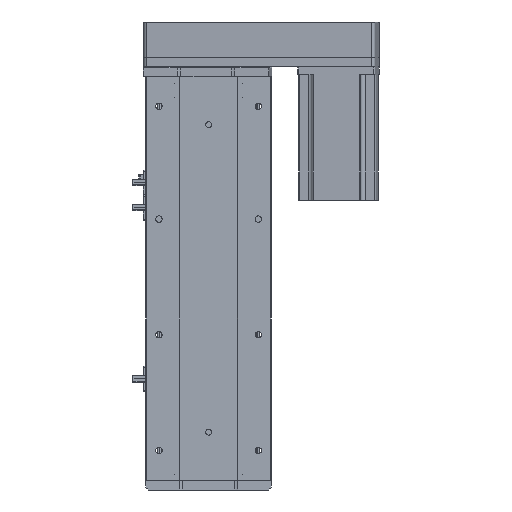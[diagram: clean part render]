
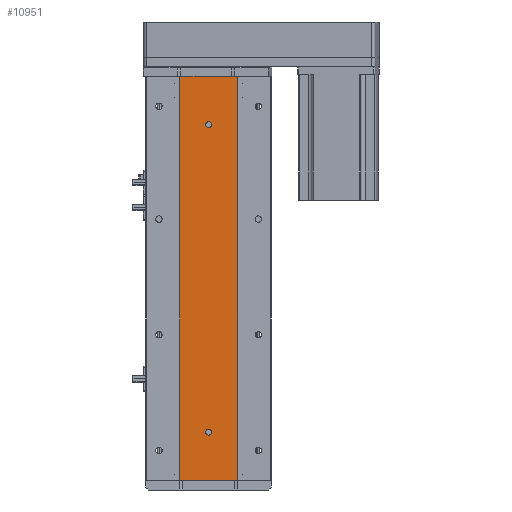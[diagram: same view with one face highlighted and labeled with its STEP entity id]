
A CAD part, left-side view. The second image highlights one B-rep face of the part: STEP entity #10951.
In plain terms, the highlighted planar face has unit normal (-1, 0, 0).
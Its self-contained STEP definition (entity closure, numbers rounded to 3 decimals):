
#96 = DIRECTION ( 'NONE',  ( 1., 0., 0. ) ) ;
#478 = CARTESIAN_POINT ( 'NONE',  ( -24.994, 29.785, 0. ) ) ;
#525 = CARTESIAN_POINT ( 'NONE',  ( -24.994, -29.785, 419. ) ) ;
#628 = VECTOR ( 'NONE', #25652, 1000. ) ;
#1012 = ORIENTED_EDGE ( 'NONE', *, *, #35257, .F. ) ;
#1099 = VERTEX_POINT ( 'NONE', #478 ) ;
#1651 = AXIS2_PLACEMENT_3D ( 'NONE', #12224, #33288, #15218 ) ;
#2696 = CARTESIAN_POINT ( 'NONE',  ( -24.994, 0., 372. ) ) ;
#2782 = EDGE_CURVE ( 'NONE', #22145, #20940, #37093, .T. ) ;
#2858 = PLANE ( 'NONE',  #38873 ) ;
#2920 = DIRECTION ( 'NONE',  ( -1., 0., 0. ) ) ;
#3284 = VECTOR ( 'NONE', #8744, 1000. ) ;
#4360 = CARTESIAN_POINT ( 'NONE',  ( -24.994, 29.785, 419. ) ) ;
#4997 = EDGE_LOOP ( 'NONE', ( #22694, #1012 ) ) ;
#5176 = CARTESIAN_POINT ( 'NONE',  ( -24.994, 0., 47. ) ) ;
#5639 = VERTEX_POINT ( 'NONE', #5176 ) ;
#6882 = VECTOR ( 'NONE', #25358, 1000. ) ;
#7089 = EDGE_LOOP ( 'NONE', ( #38589, #7568 ) ) ;
#7568 = ORIENTED_EDGE ( 'NONE', *, *, #24208, .F. ) ;
#7749 = ORIENTED_EDGE ( 'NONE', *, *, #11447, .T. ) ;
#8320 = DIRECTION ( 'NONE',  ( -1., 0., 0. ) ) ;
#8449 = FACE_BOUND ( 'NONE', #7089, .T. ) ;
#8474 = AXIS2_PLACEMENT_3D ( 'NONE', #20939, #2920, #23945 ) ;
#8533 = EDGE_LOOP ( 'NONE', ( #7749, #21873, #31318, #13162 ) ) ;
#8654 = EDGE_CURVE ( 'NONE', #22145, #1099, #17530, .T. ) ;
#8744 = DIRECTION ( 'NONE',  ( 0., -1., 0. ) ) ;
#10607 = AXIS2_PLACEMENT_3D ( 'NONE', #26341, #8320, #29367 ) ;
#10951 = ADVANCED_FACE ( 'NONE', ( #8449, #32464, #18289 ), #2858, .F. ) ;
#11202 = CIRCLE ( 'NONE', #25835, 3. ) ;
#11256 = LINE ( 'NONE', #14644, #3284 ) ;
#11444 = VERTEX_POINT ( 'NONE', #2696 ) ;
#11447 = EDGE_CURVE ( 'NONE', #1099, #17881, #11256, .T. ) ;
#12224 = CARTESIAN_POINT ( 'NONE',  ( -24.994, 0., 369. ) ) ;
#13162 = ORIENTED_EDGE ( 'NONE', *, *, #8654, .T. ) ;
#13675 = CARTESIAN_POINT ( 'NONE',  ( -24.994, 29.785, 419. ) ) ;
#14644 = CARTESIAN_POINT ( 'NONE',  ( -24.994, 29.785, 0. ) ) ;
#15004 = CARTESIAN_POINT ( 'NONE',  ( -24.994, 29.785, 419. ) ) ;
#15218 = DIRECTION ( 'NONE',  ( 0., 0., 1. ) ) ;
#15968 = CIRCLE ( 'NONE', #10607, 3. ) ;
#16239 = DIRECTION ( 'NONE',  ( -1., 0., 0. ) ) ;
#16847 = VECTOR ( 'NONE', #21544, 1000. ) ;
#17493 = EDGE_CURVE ( 'NONE', #11444, #27020, #15968, .T. ) ;
#17530 = LINE ( 'NONE', #13675, #628 ) ;
#17881 = VERTEX_POINT ( 'NONE', #28673 ) ;
#18072 = CARTESIAN_POINT ( 'NONE',  ( -24.994, 29.785, 419. ) ) ;
#18289 = FACE_OUTER_BOUND ( 'NONE', #8533, .T. ) ;
#20789 = VERTEX_POINT ( 'NONE', #33191 ) ;
#20939 = CARTESIAN_POINT ( 'NONE',  ( -24.994, 0., 50. ) ) ;
#20940 = VERTEX_POINT ( 'NONE', #25503 ) ;
#21142 = DIRECTION ( 'NONE',  ( 0., 0., -1. ) ) ;
#21544 = DIRECTION ( 'NONE',  ( 0., 0., -1. ) ) ;
#21873 = ORIENTED_EDGE ( 'NONE', *, *, #24291, .F. ) ;
#22145 = VERTEX_POINT ( 'NONE', #15004 ) ;
#22149 = CIRCLE ( 'NONE', #8474, 3. ) ;
#22694 = ORIENTED_EDGE ( 'NONE', *, *, #24368, .F. ) ;
#23945 = DIRECTION ( 'NONE',  ( 0., 0., 1. ) ) ;
#24208 = EDGE_CURVE ( 'NONE', #27020, #11444, #27713, .T. ) ;
#24291 = EDGE_CURVE ( 'NONE', #20940, #17881, #24879, .T. ) ;
#24368 = EDGE_CURVE ( 'NONE', #20789, #5639, #11202, .T. ) ;
#24879 = LINE ( 'NONE', #525, #16847 ) ;
#25358 = DIRECTION ( 'NONE',  ( 0., -1., 0. ) ) ;
#25503 = CARTESIAN_POINT ( 'NONE',  ( -24.994, -29.785, 419. ) ) ;
#25652 = DIRECTION ( 'NONE',  ( 0., 0., -1. ) ) ;
#25835 = AXIS2_PLACEMENT_3D ( 'NONE', #34334, #16239, #37399 ) ;
#26341 = CARTESIAN_POINT ( 'NONE',  ( -24.994, 0., 369. ) ) ;
#27020 = VERTEX_POINT ( 'NONE', #30804 ) ;
#27713 = CIRCLE ( 'NONE', #1651, 3. ) ;
#28673 = CARTESIAN_POINT ( 'NONE',  ( -24.994, -29.785, 0. ) ) ;
#29367 = DIRECTION ( 'NONE',  ( 0., 0., 1. ) ) ;
#30804 = CARTESIAN_POINT ( 'NONE',  ( -24.994, 0., 366. ) ) ;
#31318 = ORIENTED_EDGE ( 'NONE', *, *, #2782, .F. ) ;
#32464 = FACE_BOUND ( 'NONE', #4997, .T. ) ;
#33191 = CARTESIAN_POINT ( 'NONE',  ( -24.994, 0., 53. ) ) ;
#33288 = DIRECTION ( 'NONE',  ( -1., 0., 0. ) ) ;
#34334 = CARTESIAN_POINT ( 'NONE',  ( -24.994, 0., 50. ) ) ;
#35257 = EDGE_CURVE ( 'NONE', #5639, #20789, #22149, .T. ) ;
#37093 = LINE ( 'NONE', #4360, #6882 ) ;
#37399 = DIRECTION ( 'NONE',  ( 0., 0., 1. ) ) ;
#38589 = ORIENTED_EDGE ( 'NONE', *, *, #17493, .F. ) ;
#38873 = AXIS2_PLACEMENT_3D ( 'NONE', #18072, #96, #21142 ) ;
